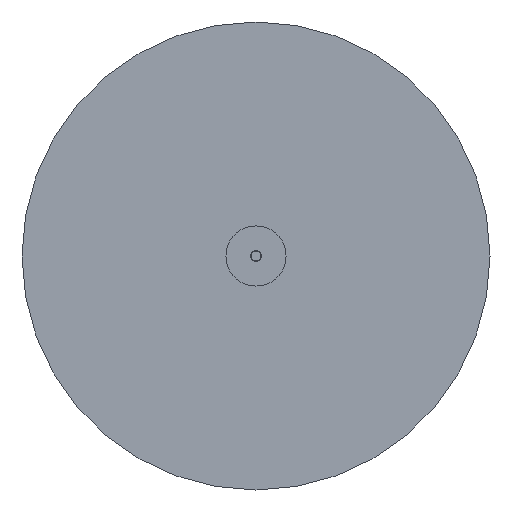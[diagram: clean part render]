
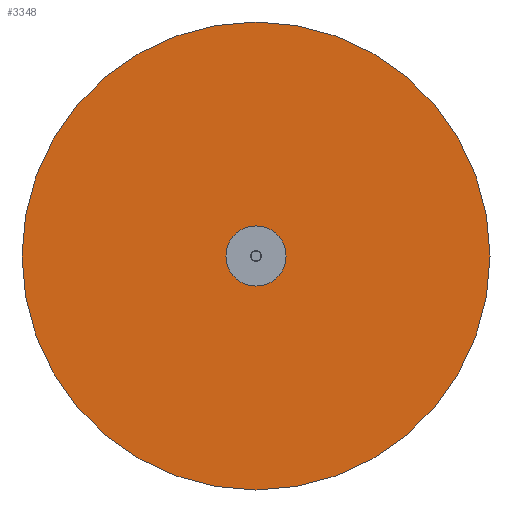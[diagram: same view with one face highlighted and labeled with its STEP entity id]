
A CAD part, front view. The second image highlights one B-rep face of the part: STEP entity #3348.
In plain terms, the highlighted planar face has unit normal (0, -1, 0).
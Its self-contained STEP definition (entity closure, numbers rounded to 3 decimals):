
#3048=CARTESIAN_POINT('',(70.,-27.5,0.0));
#3049=VERTEX_POINT('',#3048);
#3065=CARTESIAN_POINT('',(-70.,-27.5,0.));
#3066=VERTEX_POINT('',#3065);
#3073=CARTESIAN_POINT('',(0.0,-27.5,0.0));
#3074=DIRECTION('',(0.0,-1.0,0.0));
#3075=DIRECTION('',(1.0,0.0,0.0));
#3076=AXIS2_PLACEMENT_3D('',#3073,#3074,#3075);
#3077=CIRCLE('',#3076,70.);
#3078=EDGE_CURVE('',#3049,#3066,#3077,.T.);
#3140=CARTESIAN_POINT('',(9.,-27.5,0.0));
#3141=VERTEX_POINT('',#3140);
#3166=CARTESIAN_POINT('',(-9.,-27.5,0.));
#3167=VERTEX_POINT('',#3166);
#3174=CARTESIAN_POINT('',(0.0,-27.5,0.0));
#3175=DIRECTION('',(0.0,-1.0,0.0));
#3176=DIRECTION('',(1.0,0.0,0.0));
#3177=AXIS2_PLACEMENT_3D('',#3174,#3175,#3176);
#3178=CIRCLE('',#3177,9.);
#3179=EDGE_CURVE('',#3167,#3141,#3178,.T.);
#3258=CARTESIAN_POINT('',(0.0,-27.5,0.0));
#3259=DIRECTION('',(0.0,-1.0,0.0));
#3260=DIRECTION('',(1.0,0.0,0.0));
#3261=AXIS2_PLACEMENT_3D('',#3258,#3259,#3260);
#3262=CIRCLE('',#3261,9.);
#3263=EDGE_CURVE('',#3141,#3167,#3262,.T.);
#3323=CARTESIAN_POINT('',(0.0,-27.5,0.0));
#3324=DIRECTION('',(0.0,-1.0,0.0));
#3325=DIRECTION('',(1.0,0.0,0.0));
#3326=AXIS2_PLACEMENT_3D('',#3323,#3324,#3325);
#3327=CIRCLE('',#3326,70.);
#3328=EDGE_CURVE('',#3066,#3049,#3327,.T.);
#3335=CARTESIAN_POINT('',(39.5,-27.5,0.0));
#3336=DIRECTION('',(0.0,-1.0,0.0));
#3337=DIRECTION('',(0.0,0.0,-1.0));
#3338=AXIS2_PLACEMENT_3D('',#3335,#3336,#3337);
#3339=PLANE('',#3338);
#3340=ORIENTED_EDGE('',*,*,#3078,.T.);
#3341=ORIENTED_EDGE('',*,*,#3328,.T.);
#3342=EDGE_LOOP('',(#3340,#3341));
#3343=FACE_OUTER_BOUND('',#3342,.T.);
#3344=ORIENTED_EDGE('',*,*,#3263,.F.);
#3345=ORIENTED_EDGE('',*,*,#3179,.F.);
#3346=EDGE_LOOP('',(#3344,#3345));
#3347=FACE_BOUND('',#3346,.T.);
#3348=ADVANCED_FACE('',(#3343,#3347),#3339,.T.);
